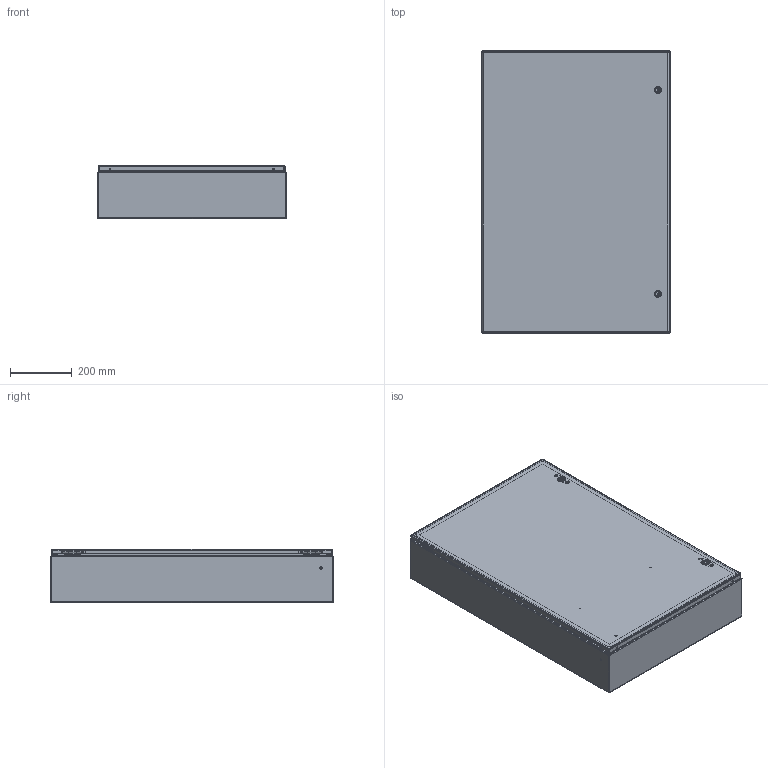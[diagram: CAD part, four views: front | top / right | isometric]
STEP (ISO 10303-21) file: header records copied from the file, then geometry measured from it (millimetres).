
FILE_DESCRIPTION (( 'STEP AP203' ), '1' );
FILE_NAME ('29414.step', '2015-03-30T06:20:04', ( '' ), ( '' ), 'SwSTEP 2.0', 'SolidWorks 2010', '' );
FILE_SCHEMA (( 'CONFIG_CONTROL_DESIGN' ));
Length unit declared in the file: inch
Products named in the file (24): 29414; 89117004; 89117003_default; 23271001_After Weld; 87937943_assy; 87937983_weldment; 87936142; 99401225; 87931362_87931362; 64101001; 64201001; 87541994_Installed Height; 87541995; 64202001; 64210001; 64203001; 87938009; 87543027; 89076399; 89076193; 89056623; 87929507; 87929767; 87929769_Installed on Pin
Assembly tree (34 placements, depth 4):
  29414
    89117004
      99401225
      23271001_After Weld  x6
      89117003_default
    87543027  x2
    89076399  x2
      89076193
      89056623
    87929507  x2
      87929769_Installed on Pin
      87929767
    87937943_assy
      64101001  x2
        64202001
        64203001
        64201001
        87541995
        64210001
        87541994_Installed Height
      87938009
      87937983_weldment
        87931362_87931362  x2
        99401225
        87936142
Bounding box: 609.6 x 914.4 x 173.1 mm (x, y, z)
Volume: 2879281.4 mm3; surface area: 3572293.1 mm2
Topology: 37 solids, 37 shells, 1585 faces, 3878 edges, 2392 vertices
Faces by surface type: plane 639, cylinder 522, bspline 224, torus 120, cone 72, sphere 8
Entity records: 34373 total; most frequent: CARTESIAN_POINT 9991, ORIENTED_EDGE 4564, DIRECTION 4350, EDGE_CURVE 2282, AXIS2_PLACEMENT_3D 1553, VERTEX_POINT 1404, LINE 1244, VECTOR 1244
